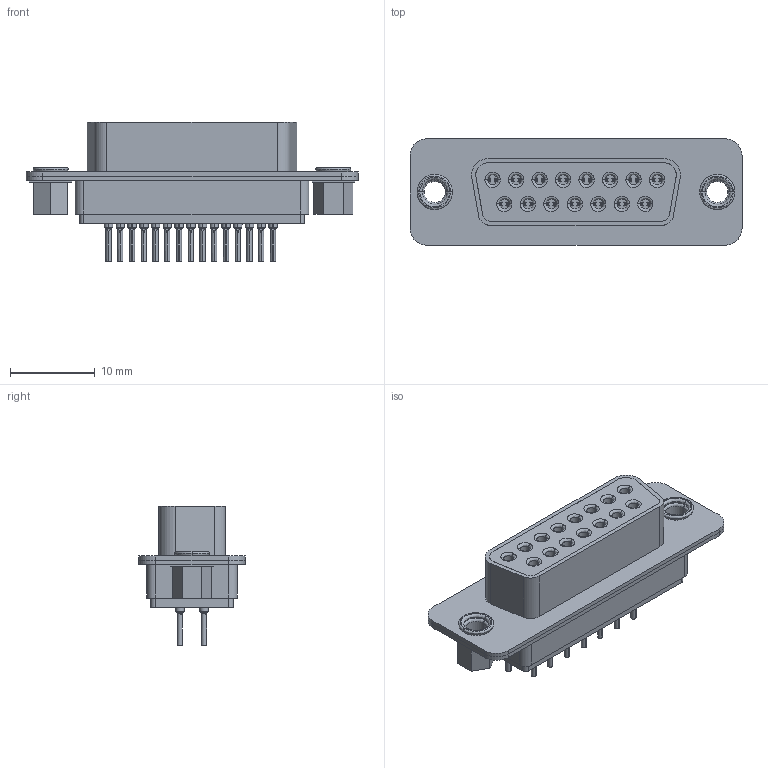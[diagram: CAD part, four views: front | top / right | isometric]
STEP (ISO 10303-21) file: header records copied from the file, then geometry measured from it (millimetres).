
FILE_DESCRIPTION (( 'STEP AP214' ), '1' );
FILE_NAME ('7905-15FTBG00N2A.STEP', '2017-03-03T01:42:44', ( 'RD02' ), ( '' ), 'SwSTEP 2.0', 'SolidWorks 2011', '' );
FILE_SCHEMA (( 'AUTOMOTIVE_DESIGN' ));
Length unit declared in the file: millimetre
Products named in the file (8): 零件1; 7905-15FTBG00N2A; 零件3; 零件9; 零件2; 零件7; 零件5; 零件4
Assembly tree (23 placements, depth 2):
  7905-15FTBG00N2A
    零件7  x15
    零件5
    零件3
    零件1
    零件4
    零件2  x2
    零件9  x2
Bounding box: 39.14 x 12.55 x 16.4 mm (x, y, z)
Volume: 2994.7 mm3; surface area: 5207.5 mm2
Topology: 55 solids, 55 shells, 780 faces, 1928 edges, 1260 vertices
Faces by surface type: plane 419, cone 143, cylinder 142, bspline 76
Entity records: 9336 total; most frequent: CARTESIAN_POINT 3813, ORIENTED_EDGE 1096, DIRECTION 1034, EDGE_CURVE 548, AXIS2_PLACEMENT_3D 389, VERTEX_POINT 352, EDGE_LOOP 270, VECTOR 256
